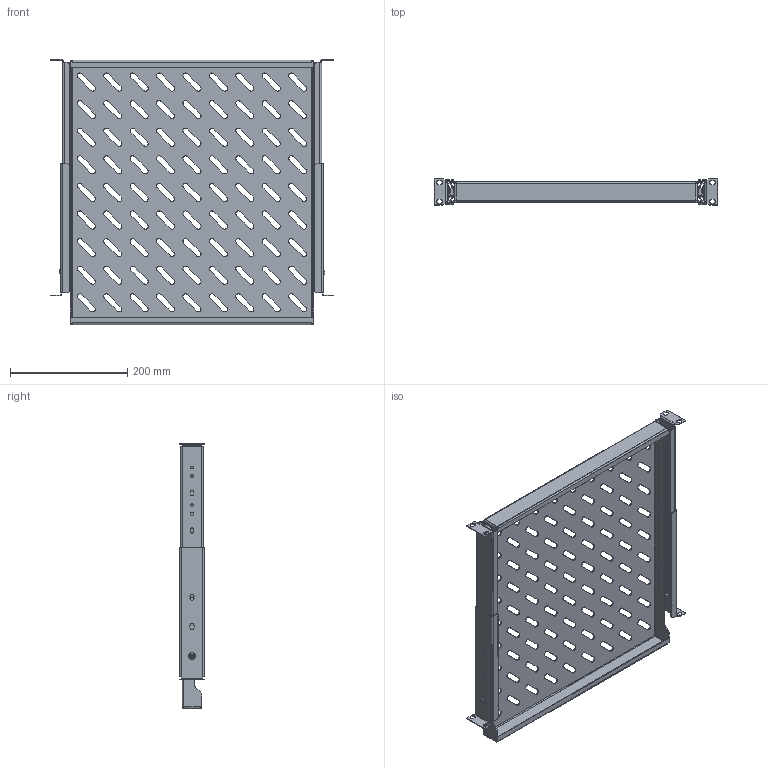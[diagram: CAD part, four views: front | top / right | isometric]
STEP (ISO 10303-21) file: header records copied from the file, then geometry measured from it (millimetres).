
FILE_DESCRIPTION (( 'STEP AP214' ), '1' );
FILE_NAME ('SH 48.45 IÌ Ïîëêà 19'''' âûäâèæíàÿ (50 ìì.).STEP', '2022-08-09T14:01:02', ( '' ), ( '' ), 'SwSTEP 2.0', 'SolidWorks 2018', '' );
FILE_SCHEMA (( 'AUTOMOTIVE_DESIGN' ));
Length unit declared in the file: millimetre
Products named in the file (1): SH 48.45 IÌ Ïîëêà 19'''' âûäâèæíàÿ (50 ìì.)
Bounding box: 482.6 x 43.6 x 451.5 mm (x, y, z)
Volume: 492595.3 mm3; surface area: 774862.1 mm2
Topology: 12 solids, 12 shells, 1211 faces, 3151 edges, 1952 vertices
Faces by surface type: plane 660, cylinder 527, cone 8, torus 8, sphere 4, bspline 4
Entity records: 50973 total; most frequent: DIRECTION 6647, CARTESIAN_POINT 6539, ORIENTED_EDGE 6294, EDGE_CURVE 3147, AXIS2_PLACEMENT_3D 2300, VECTOR 2047, LINE 2047, VERTEX_POINT 1952
